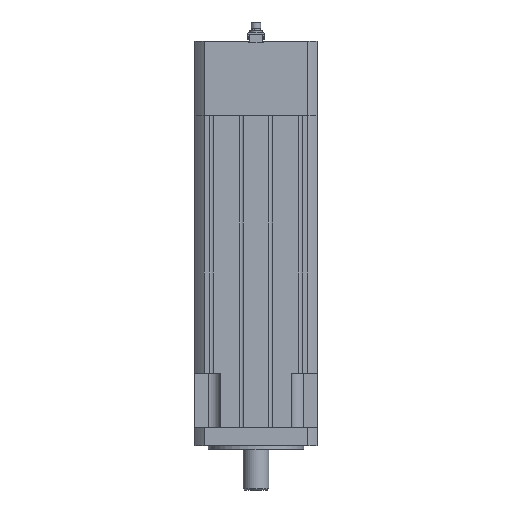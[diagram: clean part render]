
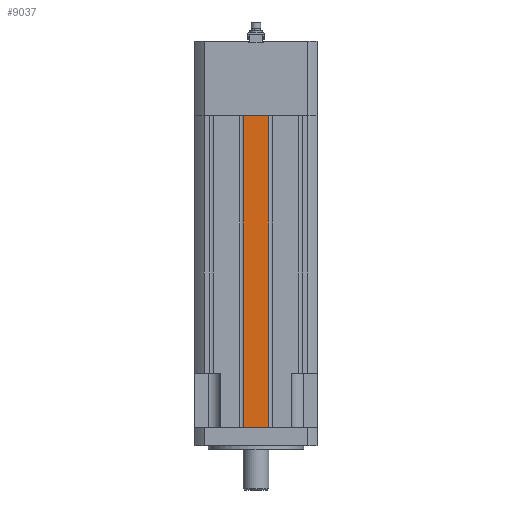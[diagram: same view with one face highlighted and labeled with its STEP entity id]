
A CAD part, front view. The second image highlights one B-rep face of the part: STEP entity #9037.
In plain terms, the highlighted planar face has unit normal (0, -1, 0).
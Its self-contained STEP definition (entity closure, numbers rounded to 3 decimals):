
#393 = AXIS2_PLACEMENT_3D ( 'NONE', #12048, #2635, #12120 ) ;
#1447 = CARTESIAN_POINT ( 'NONE',  ( 9.503, -45., 0. ) ) ;
#1483 = EDGE_CURVE ( 'NONE', #8372, #9683, #10706, .T. ) ;
#1578 = VECTOR ( 'NONE', #12682, 1000. ) ;
#1904 = DIRECTION ( 'NONE',  ( 0., 0., -1. ) ) ;
#2323 = CARTESIAN_POINT ( 'NONE',  ( 9.503, -45., 229.5 ) ) ;
#2361 = LINE ( 'NONE', #10836, #4166 ) ;
#2635 = DIRECTION ( 'NONE',  ( 0., 1., 0. ) ) ;
#3082 = VECTOR ( 'NONE', #1904, 1000. ) ;
#3201 = LINE ( 'NONE', #9538, #1578 ) ;
#3439 = EDGE_CURVE ( 'NONE', #9566, #10957, #11339, .T. ) ;
#4166 = VECTOR ( 'NONE', #12754, 1000. ) ;
#5283 = CARTESIAN_POINT ( 'NONE',  ( -9.503, -45., 229.5 ) ) ;
#7077 = CARTESIAN_POINT ( 'NONE',  ( -9.503, -45., 229.5 ) ) ;
#7861 = PLANE ( 'NONE',  #393 ) ;
#7947 = EDGE_LOOP ( 'NONE', ( #13275, #12404, #8756, #13141 ) ) ;
#8182 = CARTESIAN_POINT ( 'NONE',  ( 9.503, -45., 229.5 ) ) ;
#8372 = VERTEX_POINT ( 'NONE', #7077 ) ;
#8756 = ORIENTED_EDGE ( 'NONE', *, *, #11699, .F. ) ;
#9037 = ADVANCED_FACE ( 'NONE', ( #9791 ), #7861, .F. ) ;
#9538 = CARTESIAN_POINT ( 'NONE',  ( -9.503, -45., 0. ) ) ;
#9566 = VERTEX_POINT ( 'NONE', #2323 ) ;
#9683 = VERTEX_POINT ( 'NONE', #9827 ) ;
#9791 = FACE_OUTER_BOUND ( 'NONE', #7947, .T. ) ;
#9827 = CARTESIAN_POINT ( 'NONE',  ( -9.503, -45., 0. ) ) ;
#10706 = LINE ( 'NONE', #5283, #13274 ) ;
#10836 = CARTESIAN_POINT ( 'NONE',  ( -9.503, -45., 229.5 ) ) ;
#10957 = VERTEX_POINT ( 'NONE', #1447 ) ;
#11339 = LINE ( 'NONE', #8182, #3082 ) ;
#11699 = EDGE_CURVE ( 'NONE', #8372, #9566, #2361, .T. ) ;
#12048 = CARTESIAN_POINT ( 'NONE',  ( -9.503, -45., 229.5 ) ) ;
#12120 = DIRECTION ( 'NONE',  ( -1., 0., 0. ) ) ;
#12404 = ORIENTED_EDGE ( 'NONE', *, *, #3439, .F. ) ;
#12682 = DIRECTION ( 'NONE',  ( 1., 0., 0. ) ) ;
#12754 = DIRECTION ( 'NONE',  ( 1., 0., 0. ) ) ;
#12838 = DIRECTION ( 'NONE',  ( 0., 0., -1. ) ) ;
#13141 = ORIENTED_EDGE ( 'NONE', *, *, #1483, .T. ) ;
#13274 = VECTOR ( 'NONE', #12838, 1000. ) ;
#13275 = ORIENTED_EDGE ( 'NONE', *, *, #13289, .T. ) ;
#13289 = EDGE_CURVE ( 'NONE', #9683, #10957, #3201, .T. ) ;
